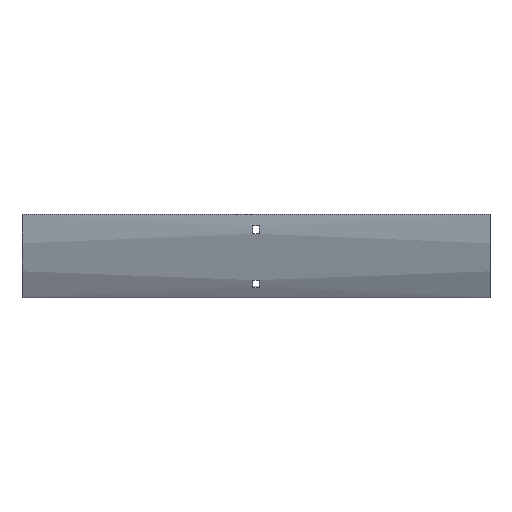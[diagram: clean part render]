
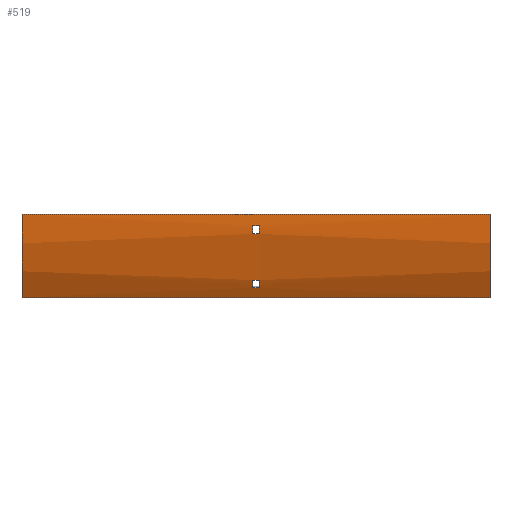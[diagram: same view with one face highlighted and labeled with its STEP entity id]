
A CAD part, front view. The second image highlights one B-rep face of the part: STEP entity #519.
In plain terms, the highlighted cylindrical face has radius 179 mm (diameter 358 mm), a partial arc.
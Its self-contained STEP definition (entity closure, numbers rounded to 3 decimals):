
#16 = CIRCLE ( 'NONE', #1660, 179. ) ;
#20 = VERTEX_POINT ( 'NONE', #402 ) ;
#49 = CARTESIAN_POINT ( 'NONE',  ( -3.25, -78.597, -12. ) ) ;
#141 = VECTOR ( 'NONE', #652, 1000. ) ;
#152 = CARTESIAN_POINT ( 'NONE',  ( 3.25, -77.764, -21. ) ) ;
#159 = FACE_OUTER_BOUND ( 'NONE', #681, .T. ) ;
#169 = FACE_BOUND ( 'NONE', #371, .T. ) ;
#178 = ORIENTED_EDGE ( 'NONE', *, *, #813, .T. ) ;
#189 = CARTESIAN_POINT ( 'NONE',  ( 252., -60.67, -78.906 ) ) ;
#191 = AXIS2_PLACEMENT_3D ( 'NONE', #1226, #1374, #1340 ) ;
#200 = VECTOR ( 'NONE', #1266, 1000. ) ;
#203 = ORIENTED_EDGE ( 'NONE', *, *, #372, .F. ) ;
#266 = DIRECTION ( 'NONE',  ( 1., 0., 0. ) ) ;
#297 = VECTOR ( 'NONE', #1471, 1000. ) ;
#371 = EDGE_LOOP ( 'NONE', ( #203, #1588, #1600, #1242 ) ) ;
#372 = EDGE_CURVE ( 'NONE', #1313, #673, #1651, .T. ) ;
#381 = ORIENTED_EDGE ( 'NONE', *, *, #1358, .T. ) ;
#392 = EDGE_CURVE ( 'NONE', #475, #940, #1246, .T. ) ;
#402 = CARTESIAN_POINT ( 'NONE',  ( 3.25, -64.448, -70.695 ) ) ;
#431 = CARTESIAN_POINT ( 'NONE',  ( -3.25, -77.764, -21. ) ) ;
#432 = VERTEX_POINT ( 'NONE', #431 ) ;
#434 = LINE ( 'NONE', #1219, #297 ) ;
#447 = CARTESIAN_POINT ( 'NONE',  ( -3.25, 100., 0. ) ) ;
#449 = CARTESIAN_POINT ( 'NONE',  ( 252., 100., 0. ) ) ;
#457 = CARTESIAN_POINT ( 'NONE',  ( -3.25, -64.448, -70.695 ) ) ;
#468 = VERTEX_POINT ( 'NONE', #1486 ) ;
#471 = EDGE_CURVE ( 'NONE', #673, #468, #1605, .T. ) ;
#475 = VERTEX_POINT ( 'NONE', #1479 ) ;
#489 = VECTOR ( 'NONE', #1495, 1000. ) ;
#507 = LINE ( 'NONE', #1169, #141 ) ;
#519 = ADVANCED_FACE ( 'NONE', ( #159, #1505, #169 ), #842, .T. ) ;
#547 = VERTEX_POINT ( 'NONE', #1522 ) ;
#558 = DIRECTION ( 'NONE',  ( -1., 0., 0. ) ) ;
#610 = CARTESIAN_POINT ( 'NONE',  ( -3.25, -60.67, -78.906 ) ) ;
#634 = ORIENTED_EDGE ( 'NONE', *, *, #392, .F. ) ;
#643 = DIRECTION ( 'NONE',  ( 0., 0., -1. ) ) ;
#652 = DIRECTION ( 'NONE',  ( -1., 0., 0. ) ) ;
#655 = DIRECTION ( 'NONE',  ( -1., 0., 0. ) ) ;
#662 = DIRECTION ( 'NONE',  ( 0., 0., -1. ) ) ;
#665 = EDGE_CURVE ( 'NONE', #468, #20, #1153, .T. ) ;
#669 = ORIENTED_EDGE ( 'NONE', *, *, #1082, .F. ) ;
#673 = VERTEX_POINT ( 'NONE', #610 ) ;
#681 = EDGE_LOOP ( 'NONE', ( #704, #669, #634, #178 ) ) ;
#704 = ORIENTED_EDGE ( 'NONE', *, *, #1692, .T. ) ;
#706 = CARTESIAN_POINT ( 'NONE',  ( -252., -55.019, -89.5 ) ) ;
#716 = DIRECTION ( 'NONE',  ( 1., 0., 0. ) ) ;
#756 = DIRECTION ( 'NONE',  ( 1., 0., 0. ) ) ;
#757 = ORIENTED_EDGE ( 'NONE', *, *, #1598, .T. ) ;
#770 = ORIENTED_EDGE ( 'NONE', *, *, #999, .T. ) ;
#781 = VERTEX_POINT ( 'NONE', #1107 ) ;
#806 = VERTEX_POINT ( 'NONE', #152 ) ;
#811 = CARTESIAN_POINT ( 'NONE',  ( -252., 100., 0. ) ) ;
#813 = EDGE_CURVE ( 'NONE', #475, #547, #434, .T. ) ;
#842 = CYLINDRICAL_SURFACE ( 'NONE', #191, 179. ) ;
#847 = DIRECTION ( 'NONE',  ( -1., 0., 0. ) ) ;
#896 = AXIS2_PLACEMENT_3D ( 'NONE', #1589, #266, #662 ) ;
#905 = DIRECTION ( 'NONE',  ( 1., 0., 0. ) ) ;
#911 = VECTOR ( 'NONE', #756, 1000. ) ;
#940 = VERTEX_POINT ( 'NONE', #1103 ) ;
#954 = DIRECTION ( 'NONE',  ( 1., 0., 0. ) ) ;
#983 = VERTEX_POINT ( 'NONE', #706 ) ;
#999 = EDGE_CURVE ( 'NONE', #806, #432, #1650, .T. ) ;
#1003 = CIRCLE ( 'NONE', #1443, 179. ) ;
#1019 = CARTESIAN_POINT ( 'NONE',  ( 252., -64.448, -70.695 ) ) ;
#1054 = DIRECTION ( 'NONE',  ( 0., 0., -1. ) ) ;
#1082 = EDGE_CURVE ( 'NONE', #940, #983, #507, .T. ) ;
#1103 = CARTESIAN_POINT ( 'NONE',  ( 252., -55.019, -89.5 ) ) ;
#1107 = CARTESIAN_POINT ( 'NONE',  ( 3.25, -78.597, -12. ) ) ;
#1111 = EDGE_CURVE ( 'NONE', #781, #806, #1120, .T. ) ;
#1119 = EDGE_LOOP ( 'NONE', ( #770, #381, #757, #1517 ) ) ;
#1120 = CIRCLE ( 'NONE', #1228, 179. ) ;
#1153 = CIRCLE ( 'NONE', #1585, 179. ) ;
#1160 = AXIS2_PLACEMENT_3D ( 'NONE', #449, #716, #1245 ) ;
#1169 = CARTESIAN_POINT ( 'NONE',  ( 252., -55.019, -89.5 ) ) ;
#1201 = VECTOR ( 'NONE', #558, 1000. ) ;
#1219 = CARTESIAN_POINT ( 'NONE',  ( 252., -79., 0. ) ) ;
#1226 = CARTESIAN_POINT ( 'NONE',  ( 252., 100., 0. ) ) ;
#1228 = AXIS2_PLACEMENT_3D ( 'NONE', #1686, #905, #643 ) ;
#1233 = VERTEX_POINT ( 'NONE', #49 ) ;
#1242 = ORIENTED_EDGE ( 'NONE', *, *, #471, .F. ) ;
#1243 = DIRECTION ( 'NONE',  ( 0., 0., 1. ) ) ;
#1245 = DIRECTION ( 'NONE',  ( 0., 0., -1. ) ) ;
#1246 = CIRCLE ( 'NONE', #1160, 179. ) ;
#1266 = DIRECTION ( 'NONE',  ( -1., 0., 0. ) ) ;
#1285 = DIRECTION ( 'NONE',  ( 0., 0., 1. ) ) ;
#1286 = LINE ( 'NONE', #1679, #911 ) ;
#1313 = VERTEX_POINT ( 'NONE', #457 ) ;
#1340 = DIRECTION ( 'NONE',  ( 0., 0., 1. ) ) ;
#1358 = EDGE_CURVE ( 'NONE', #432, #1233, #16, .T. ) ;
#1374 = DIRECTION ( 'NONE',  ( -1., 0., 0. ) ) ;
#1399 = CARTESIAN_POINT ( 'NONE',  ( 3.25, 100., 0. ) ) ;
#1443 = AXIS2_PLACEMENT_3D ( 'NONE', #811, #954, #1054 ) ;
#1471 = DIRECTION ( 'NONE',  ( -1., 0., 0. ) ) ;
#1479 = CARTESIAN_POINT ( 'NONE',  ( 252., -79., 0. ) ) ;
#1486 = CARTESIAN_POINT ( 'NONE',  ( 3.25, -60.67, -78.906 ) ) ;
#1495 = DIRECTION ( 'NONE',  ( 1., 0., 0. ) ) ;
#1504 = CARTESIAN_POINT ( 'NONE',  ( 252., -77.764, -21. ) ) ;
#1505 = FACE_BOUND ( 'NONE', #1119, .T. ) ;
#1517 = ORIENTED_EDGE ( 'NONE', *, *, #1111, .T. ) ;
#1522 = CARTESIAN_POINT ( 'NONE',  ( -252., -79., 0. ) ) ;
#1534 = LINE ( 'NONE', #1019, #200 ) ;
#1548 = EDGE_CURVE ( 'NONE', #20, #1313, #1534, .T. ) ;
#1585 = AXIS2_PLACEMENT_3D ( 'NONE', #1399, #655, #1285 ) ;
#1588 = ORIENTED_EDGE ( 'NONE', *, *, #1548, .F. ) ;
#1589 = CARTESIAN_POINT ( 'NONE',  ( -3.25, 100., 0. ) ) ;
#1598 = EDGE_CURVE ( 'NONE', #1233, #781, #1286, .T. ) ;
#1600 = ORIENTED_EDGE ( 'NONE', *, *, #665, .F. ) ;
#1605 = LINE ( 'NONE', #189, #489 ) ;
#1650 = LINE ( 'NONE', #1504, #1201 ) ;
#1651 = CIRCLE ( 'NONE', #896, 179. ) ;
#1660 = AXIS2_PLACEMENT_3D ( 'NONE', #447, #847, #1243 ) ;
#1679 = CARTESIAN_POINT ( 'NONE',  ( 252., -78.597, -12. ) ) ;
#1686 = CARTESIAN_POINT ( 'NONE',  ( 3.25, 100., 0. ) ) ;
#1692 = EDGE_CURVE ( 'NONE', #547, #983, #1003, .T. ) ;
